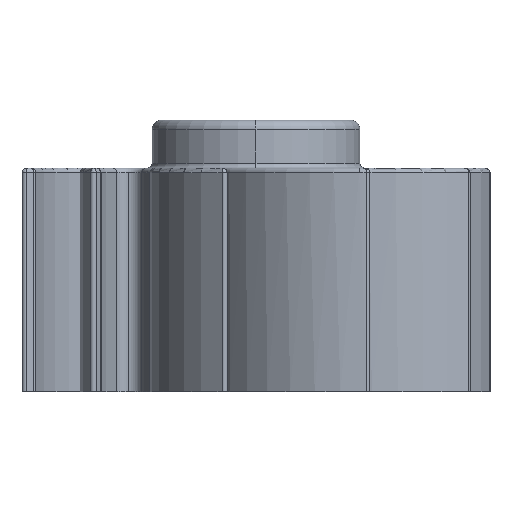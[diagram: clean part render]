
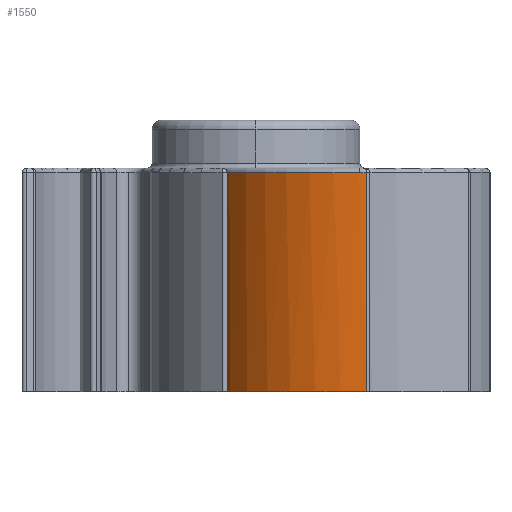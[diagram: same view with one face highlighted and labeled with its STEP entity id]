
A CAD part, left-side view. The second image highlights one B-rep face of the part: STEP entity #1550.
In plain terms, the highlighted cylindrical face has radius 10 mm (diameter 20 mm), a partial arc.
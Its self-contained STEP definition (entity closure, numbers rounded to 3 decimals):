
#181 = DIRECTION ( 'NONE',  ( 0., 0., 1. ) ) ;
#223 = EDGE_CURVE ( 'NONE', #4304, #1039, #4349, .T. ) ;
#256 = EDGE_CURVE ( 'NONE', #1393, #2528, #1759, .T. ) ;
#278 = DIRECTION ( 'NONE',  ( 1., 0., 0. ) ) ;
#399 = CARTESIAN_POINT ( 'NONE',  ( -7.638, 2.482, -1.6 ) ) ;
#801 = CYLINDRICAL_SURFACE ( 'NONE', #1754, 10. ) ;
#807 = DIRECTION ( 'NONE',  ( -1., 0., 0. ) ) ;
#890 = ORIENTED_EDGE ( 'NONE', *, *, #4389, .T. ) ;
#1039 = VERTEX_POINT ( 'NONE', #2983 ) ;
#1237 = CARTESIAN_POINT ( 'NONE',  ( -3.135, -6.447, 12.1 ) ) ;
#1393 = VERTEX_POINT ( 'NONE', #399 ) ;
#1433 = DIRECTION ( 'NONE',  ( -1., 0., 0. ) ) ;
#1543 = ORIENTED_EDGE ( 'NONE', *, *, #256, .F. ) ;
#1550 = ADVANCED_FACE ( 'NONE', ( #5533 ), #801, .T. ) ;
#1571 = CIRCLE ( 'NONE', #5417, 10. ) ;
#1671 = CIRCLE ( 'NONE', #5513, 10. ) ;
#1727 = DIRECTION ( 'NONE',  ( 0., 0., 1. ) ) ;
#1754 = AXIS2_PLACEMENT_3D ( 'NONE', #2926, #5019, #278 ) ;
#1759 = LINE ( 'NONE', #4919, #6070 ) ;
#1781 = AXIS2_PLACEMENT_3D ( 'NONE', #3443, #5539, #807 ) ;
#2528 = VERTEX_POINT ( 'NONE', #5993 ) ;
#2552 = VECTOR ( 'NONE', #1727, 1000. ) ;
#2845 = EDGE_CURVE ( 'NONE', #1393, #4304, #4762, .T. ) ;
#2926 = CARTESIAN_POINT ( 'NONE',  ( -3.135, -6.447, -1.6 ) ) ;
#2983 = CARTESIAN_POINT ( 'NONE',  ( -13.124, -6.921, 12.1 ) ) ;
#3109 = ORIENTED_EDGE ( 'NONE', *, *, #2845, .T. ) ;
#3350 = DIRECTION ( 'NONE',  ( 0., 0., -1. ) ) ;
#3443 = CARTESIAN_POINT ( 'NONE',  ( -3.135, -6.447, -1.6 ) ) ;
#3514 = CARTESIAN_POINT ( 'NONE',  ( -13.124, -6.921, -1.6 ) ) ;
#3679 = EDGE_LOOP ( 'NONE', ( #4557, #5588, #890, #1543, #3109 ) ) ;
#4060 = CARTESIAN_POINT ( 'NONE',  ( -3.135, -6.447, 12.1 ) ) ;
#4304 = VERTEX_POINT ( 'NONE', #3514 ) ;
#4349 = LINE ( 'NONE', #6446, #2552 ) ;
#4368 = CARTESIAN_POINT ( 'NONE',  ( -13.135, -6.447, 12.1 ) ) ;
#4389 = EDGE_CURVE ( 'NONE', #4688, #2528, #1571, .T. ) ;
#4557 = ORIENTED_EDGE ( 'NONE', *, *, #223, .T. ) ;
#4688 = VERTEX_POINT ( 'NONE', #4368 ) ;
#4762 = CIRCLE ( 'NONE', #1781, 10. ) ;
#4919 = CARTESIAN_POINT ( 'NONE',  ( -7.638, 2.482, -1.6 ) ) ;
#5019 = DIRECTION ( 'NONE',  ( 0., 0., 1. ) ) ;
#5360 = EDGE_CURVE ( 'NONE', #1039, #4688, #1671, .T. ) ;
#5417 = AXIS2_PLACEMENT_3D ( 'NONE', #4060, #6162, #1433 ) ;
#5439 = DIRECTION ( 'NONE',  ( -1., 0., 0. ) ) ;
#5513 = AXIS2_PLACEMENT_3D ( 'NONE', #1237, #3350, #5439 ) ;
#5533 = FACE_OUTER_BOUND ( 'NONE', #3679, .T. ) ;
#5539 = DIRECTION ( 'NONE',  ( 0., 0., 1. ) ) ;
#5588 = ORIENTED_EDGE ( 'NONE', *, *, #5360, .T. ) ;
#5993 = CARTESIAN_POINT ( 'NONE',  ( -7.638, 2.482, 12.1 ) ) ;
#6070 = VECTOR ( 'NONE', #181, 1000. ) ;
#6162 = DIRECTION ( 'NONE',  ( 0., 0., -1. ) ) ;
#6446 = CARTESIAN_POINT ( 'NONE',  ( -13.124, -6.921, -1.6 ) ) ;
